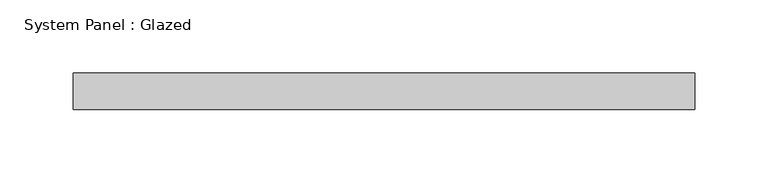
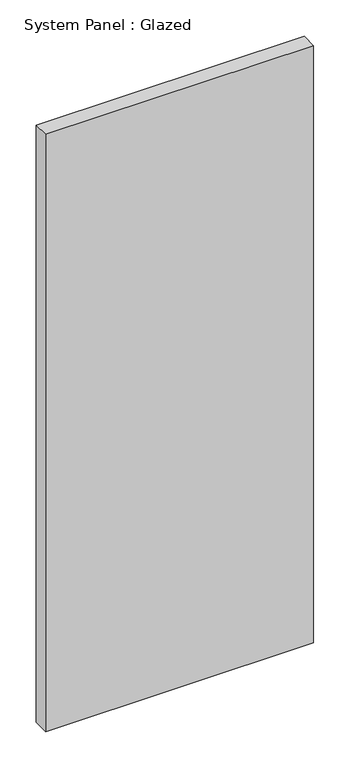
"""IFC4 building model written with IfcOpenShell, lengths in millimetres: plate geometry, System Panel : Glazed."""

from ifc_helpers import new_model, si_unit, origin, origin_with_axes, place, context, project, spatial, polyline, outline, extrude, source, transform, mapped, element, save


def system_panel_glazed_9e0dc01b(model_context):
    return source(origin(), model_context, "Body", "SweptSolid", [
        extrude(outline(polyline([(212.5, 24.5), (-212.5, 24.5), (-212.5, 49.5), (212.5, 49.5), (212.5, 24.5)])), origin_with_axes(), (0.0, 0.0, 1.0), 1000.0),
    ])


if __name__ == "__main__":
    model = new_model("IFC4")
    model_context = context("Model", 3, world=origin())
    ifc_project = project(units=[si_unit("LENGTHUNIT", "METRE", prefix="MILLI")], contexts=[model_context])
    site = spatial("IfcSite", under=ifc_project)
    building = spatial("IfcBuilding", under=site)
    placement = place(None, origin())
    system_panel_glazed_shape = system_panel_glazed_9e0dc01b(model_context)
    element("IfcPlate", 1, ObjectType="System Panel : Glazed", at=placement, inside=building, context=model_context, shape_type="MappedRepresentation", body=[
        mapped(system_panel_glazed_shape, transform((0.0, 0.0, 0.0), x_axis=(1.0, 0.0, 0.0), y_axis=(0.0, 1.0, 0.0), z_axis=(0.0, 0.0, 1.0))),
    ])
    save(model, "model.ifc")
